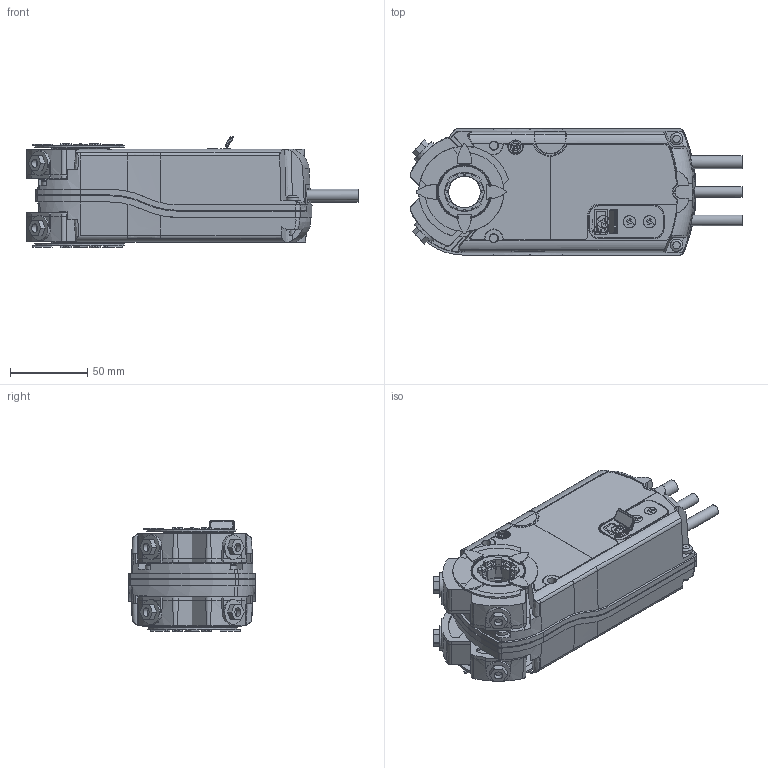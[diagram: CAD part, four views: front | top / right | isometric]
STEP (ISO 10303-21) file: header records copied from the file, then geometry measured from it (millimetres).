
FILE_DESCRIPTION(/* description */ (''),/* implementation_level */ '2;1');
FILE_NAME(/* name */ 'A5W00049558_B_2.stp',/* time_stamp */ '2019-05-16T11:36:14+02:00',/* author */ (''),/* organization */ (''),/* preprocessor_version */ 'ST-DEVELOPER v16.7',/* originating_system */ 'SIEMENS PLM Software NX 12.0',/* authorisation */ '');
FILE_SCHEMA (('AUTOMOTIVE_DESIGN { 1 0 10303 214 3 1 1 1 }'));
Products named in the file (1): z001516CC735lbe3
Bounding box: 215.32 x 82 x 72.07 mm (x, y, z)
Volume: 818122.5 mm3; surface area: 206043.7 mm2
Topology: 44 solids, 48 shells, 2980 faces, 8535 edges, 5742 vertices
Faces by surface type: plane 1557, cone 696, cylinder 618, bspline 45, revolution 32, sphere 16, extrusion 12, torus 4
Full cylindrical faces by diameter (mm): 0.6 x3, 1.01 x288, 5 x2, 5.5 x4, 6.9 x2, 7 x4, 7.9 x3, 8 x6, 8.5 x1, 9 x3, 16 x4, 22.75 x4, 23.2 x4, 25.272 x4, 26.3 x4, 31.589 x2, 31.68 x2, 34.78 x1, 35 x1, 35.18 x1, 35.4 x1
Entity records: 101708 total; most frequent: CARTESIAN_POINT 22578, DIRECTION 14769, ORIENTED_EDGE 14300, EDGE_CURVE 7150, AXIS2_PLACEMENT_3D 5661, VERTEX_POINT 5082, EDGE_LOOP 4433, VECTOR 3415
